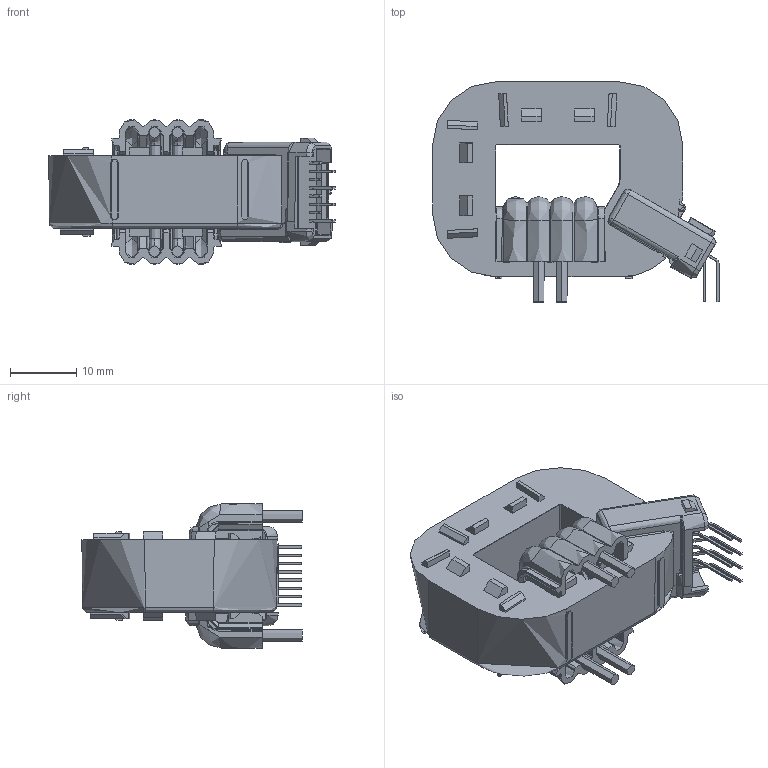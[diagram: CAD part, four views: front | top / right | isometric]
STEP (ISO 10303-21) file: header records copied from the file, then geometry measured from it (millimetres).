
FILE_DESCRIPTION(('Creo Elements/Direct Modeling STEP Export'),'2;1');
FILE_NAME('HO-PW series.stp','2017-12-14T14:23:39',(''),(''),'PTC Creo Elements/Direct Modeling STEP processor for AP214 (Solid Model)','PTC Creo Elements/Direct Modeling 19.0E 27-Jun-2016 (C) Parametric Technology GmbH','');
FILE_SCHEMA(('AUTOMOTIVE_DESIGN { 1 0 10303 214 1 1 1 1 }'));
Products named in the file (2): BLACK_BOX_HO250-PW
Assembly tree (1 placements, depth 2):
  BLACK_BOX_HO250-PW
    BLACK_BOX_HO250-PW
Bounding box: 43.31 x 33.3 x 21.86 mm (x, y, z)
Topology: 2 solids, 5 shells, 1058 faces, 2800 edges, 1763 vertices
Faces by surface type: plane 517, cylinder 250, bspline 180, torus 76, cone 24, extrusion 6, sphere 5
Full cylindrical faces by diameter (mm): 0.4 x1, 0.6 x1
Entity records: 59247 total; most frequent: CARTESIAN_POINT 27174, ORIENTED_EDGE 5572, DIRECTION 4360, EDGE_CURVE 2786, VERTEX_POINT 1760, VECTOR 1588, LINE 1582, AXIS2_PLACEMENT_3D 1386
